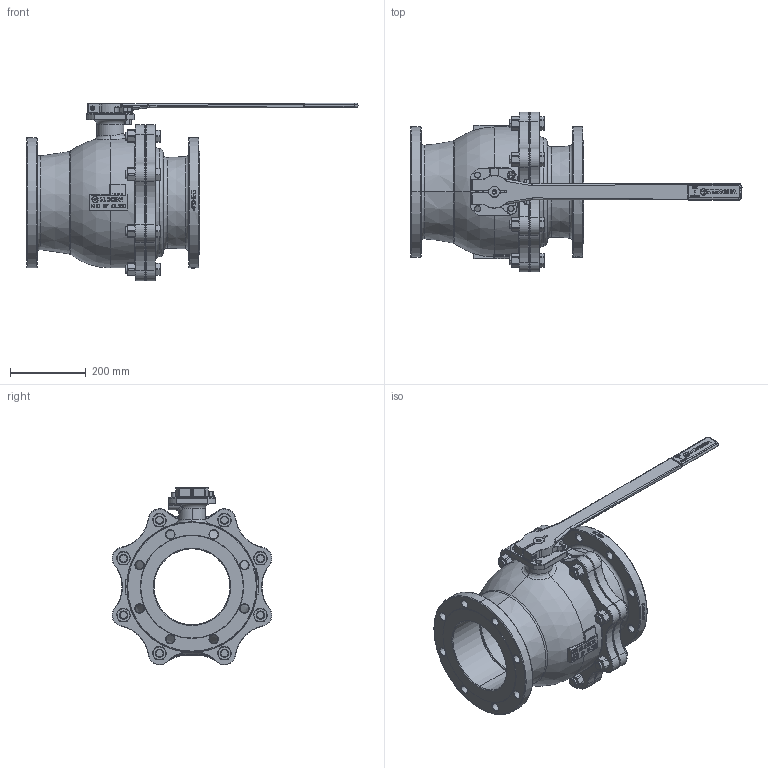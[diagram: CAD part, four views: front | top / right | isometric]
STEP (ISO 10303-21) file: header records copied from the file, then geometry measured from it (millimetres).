
FILE_DESCRIPTION((''),'2;1');
FILE_NAME('KHEFS-8-VFS-8-C150PHH','2015-08-10T',('mahrhauserh'),('RAND'),'PRO/ENGINEER BY PARAMETRIC TECHNOLOGY CORPORATION, 2013410','PRO/ENGINEER BY PARAMETRIC TECHNOLOGY CORPORATION, 2013410','');
FILE_SCHEMA(('CONFIG_CONTROL_DESIGN'));
Products named in the file (1): KHEFS-8-VFS-8-C150PHH
Bounding box: 874 x 420.31 x 467.3 mm (x, y, z)
Volume: 15348896.7 mm3; surface area: 2367895.9 mm2
Topology: 1 solids, 4 shells, 3440 faces, 8848 edges, 5570 vertices
Faces by surface type: plane 1965, cylinder 632, torus 408, cone 284, bspline 104, sphere 47
Entity records: 125707 total; most frequent: CARTESIAN_POINT 42751, ORIENTED_EDGE 17676, DIRECTION 16839, EDGE_CURVE 8838, AXIS2_PLACEMENT_3D 5866, VERTEX_POINT 5570, VECTOR 5107, LINE 5107
